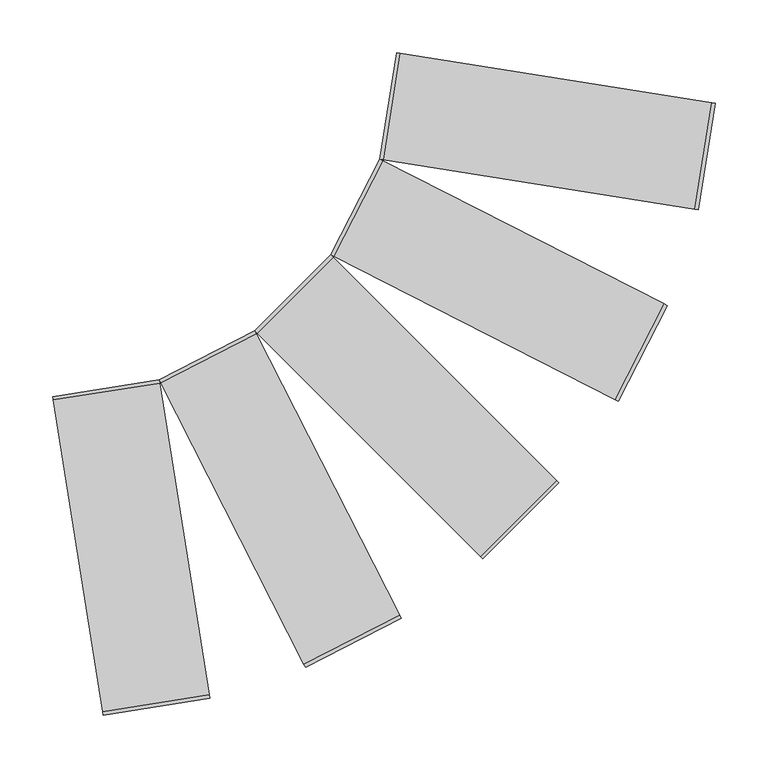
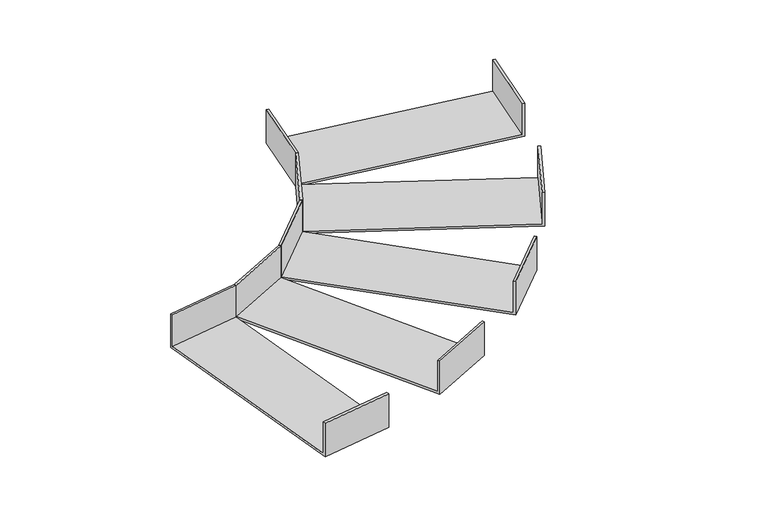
"""IFC4 building model written with IfcOpenShell, lengths in millimetres: cable carrier fitting geometry, Bend-Horizontal-Cablofil-Wire_Mesh_Cable_Tray : Faslock."""

from ifc_helpers import new_model, si_unit, frame, origin, place, context, project, spatial, polyline, outline, extrude, source, transform, mapped, element, save


def cable_carrier_fitting_ccfa0999(model_context):
    return source(origin(), model_context, "Body", "SweptSolid", [
        extrude(outline(polyline([(-50.8, 0.0), (0.0, 0.0), (0.0, -304.7999999), (-50.8, -304.7999999), (-50.8, -301.6249999), (-3.175, -301.6249999), (-3.175, -3.175), (-50.8, -3.175), (-50.8, 0.0)])), frame((-376.7874882, 168.2937416, -25.4), z_axis=(0.8910065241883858, 0.45399049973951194, 0.0), x_axis=(0.0, 0.0, -1.0)), (0.0, 0.0, 1.0), 101.6),
        extrude(outline(polyline([(-50.8, 0.0), (0.0, 0.0), (0.0, -304.8), (-50.8, -304.8), (-50.8, -301.625), (-3.175, -301.625), (-3.175, -3.175), (-50.8, -3.175), (-50.8, 0.0)])), frame((-286.2612254, 214.4191764, -25.4), z_axis=(0.7071067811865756, 0.7071067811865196, 0.0), x_axis=(0.0, 0.0, -1.0)), (0.0, 0.0, 1.0), 101.6),
        extrude(outline(polyline([(-50.8, 0.0), (0.0, 0.0), (0.0, -304.8), (-50.8, -304.8), (-50.8, -301.625), (-3.175, -301.625), (-3.175, -3.175), (-50.8, -3.175), (-50.8, 0.0)])), frame((-214.4191764, 286.2612254, -25.4), z_axis=(0.4539904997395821, 0.8910065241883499, 0.0), x_axis=(0.0, 0.0, -1.0)), (0.0, 0.0, 1.0), 101.6),
        extrude(outline(polyline([(-50.8, 0.0), (0.0, 0.0), (0.0, -304.8), (-50.8, -304.8), (-50.8, -301.625), (-3.175, -301.625), (-3.175, -3.175), (-50.8, -3.175), (-50.8, 0.0)])), frame((-477.1366237, 152.4, -25.4), z_axis=(0.987688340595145, 0.15643446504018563, 0.0), x_axis=(0.0, 0.0, -1.0)), (0.0, 0.0, 1.0), 101.6),
        extrude(outline(polyline([(-50.8, 0.0), (0.0, 0.0), (0.0, -304.8), (-50.8, -304.8), (-50.8, -301.625), (-3.175, -301.625), (-3.175, -3.1749999), (-50.8, -3.1749999), (-50.8, 0.0)])), frame((-168.2937416, 376.7874882, -25.4), z_axis=(0.15643446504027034, 0.9876883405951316, 0.0), x_axis=(0.0, 0.0, -1.0)), (0.0, 0.0, 1.0), 101.6),
    ])


if __name__ == "__main__":
    model = new_model("IFC4")
    model_context = context("Model", 3, world=origin())
    ifc_project = project(units=[si_unit("LENGTHUNIT", "METRE", prefix="MILLI")], contexts=[model_context])
    site = spatial("IfcSite", under=ifc_project)
    building = spatial("IfcBuilding", under=site)
    placement = place(None, origin())
    cable_carrier_fitting_shape = cable_carrier_fitting_ccfa0999(model_context)
    element("IfcCableCarrierFitting", 1, ObjectType="Bend-Horizontal-Cablofil-Wire_Mesh_Cable_Tray : Faslock", at=placement, inside=building, context=model_context, shape_type="MappedRepresentation", body=[
        mapped(cable_carrier_fitting_shape, transform((0.0, 0.0, 0.0), x_axis=(1.0, 0.0, 0.0), y_axis=(0.0, 1.0, 0.0), z_axis=(0.0, 0.0, 1.0))),
    ])
    save(model, "model.ifc")
